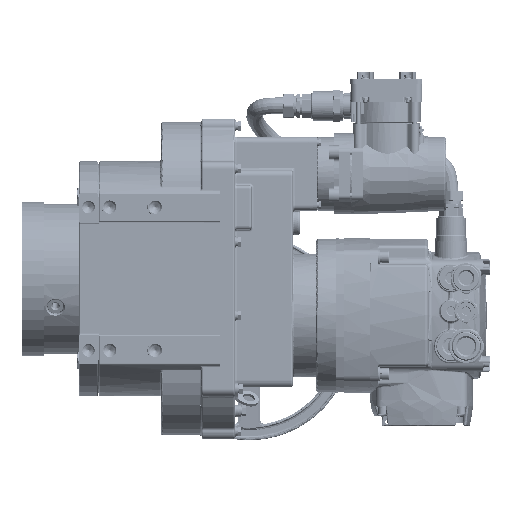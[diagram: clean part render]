
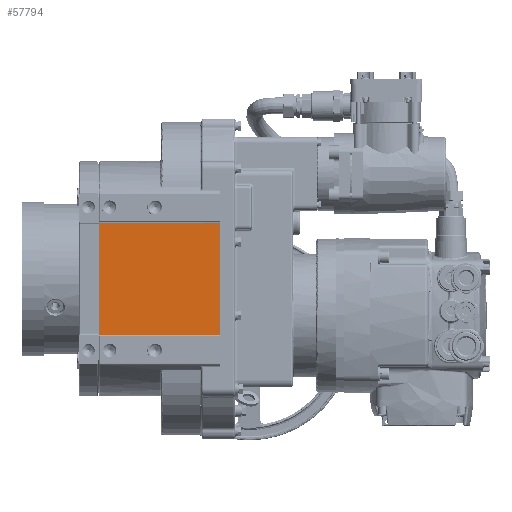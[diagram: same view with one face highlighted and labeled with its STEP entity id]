
A CAD part, front view. The second image highlights one B-rep face of the part: STEP entity #57794.
In plain terms, the highlighted planar face has unit normal (0, -1, 0).
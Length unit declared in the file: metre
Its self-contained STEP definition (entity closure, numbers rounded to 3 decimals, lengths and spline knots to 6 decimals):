
#54876=VERTEX_POINT('',#54877);
#54877=CARTESIAN_POINT('',(0.0,-0.1065,-0.0765));
#54884=EDGE_CURVE('',#54885,#54876,#54887,.T.);
#54885=VERTEX_POINT('',#54886);
#54886=CARTESIAN_POINT('',(0.0,-0.1065,0.0765));
#54887=LINE('',#54888,#54889);
#54888=CARTESIAN_POINT('',(0.0,-0.1065,0.0785));
#54889=VECTOR('',#54890,1.0);
#54890=DIRECTION('',(0.0,0.,-1.0));
#57794=ADVANCED_FACE('',(#57800),#57795,.T.);
#57795=PLANE('',#57796);
#57796=AXIS2_PLACEMENT_3D('',#57797,#57798,#57799);
#57797=CARTESIAN_POINT('',(0.0,-0.1065,0.0785));
#57798=DIRECTION('',(0.0,-1.0,0.));
#57799=DIRECTION('',(-1.0,0.0,0.0));
#57800=FACE_OUTER_BOUND('',#57801,.T.);
#57801=EDGE_LOOP('',(#57802,#57812,#57818,#57819));
#57802=ORIENTED_EDGE('',*,*,#57803,.F.);
#57803=EDGE_CURVE('',#57804,#57806,#57808,.T.);
#57804=VERTEX_POINT('',#57805);
#57805=CARTESIAN_POINT('',(0.165,-0.1065,0.0765));
#57806=VERTEX_POINT('',#57807);
#57807=CARTESIAN_POINT('',(0.165,-0.1065,-0.0765));
#57808=LINE('',#57809,#57810);
#57809=CARTESIAN_POINT('',(0.165,-0.1065,0.0785));
#57810=VECTOR('',#57811,1.0);
#57811=DIRECTION('',(0.0,0.,-1.0));
#57812=ORIENTED_EDGE('',*,*,#57813,.T.);
#57813=EDGE_CURVE('',#57804,#54885,#57814,.F.);
#57814=LINE('',#57815,#57816);
#57815=CARTESIAN_POINT('',(0.0,-0.1065,0.0765));
#57816=VECTOR('',#57817,1.0);
#57817=DIRECTION('',(1.0,0.0,0.0));
#57818=ORIENTED_EDGE('',*,*,#54884,.T.);
#57819=ORIENTED_EDGE('',*,*,#57820,.T.);
#57820=EDGE_CURVE('',#54876,#57806,#57821,.T.);
#57821=LINE('',#57822,#57823);
#57822=CARTESIAN_POINT('',(0.165,-0.1065,-0.0765));
#57823=VECTOR('',#57824,1.0);
#57824=DIRECTION('',(1.0,0.0,0.0));
